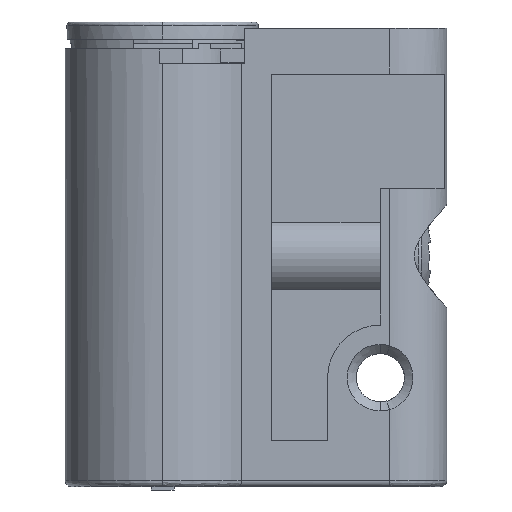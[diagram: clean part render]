
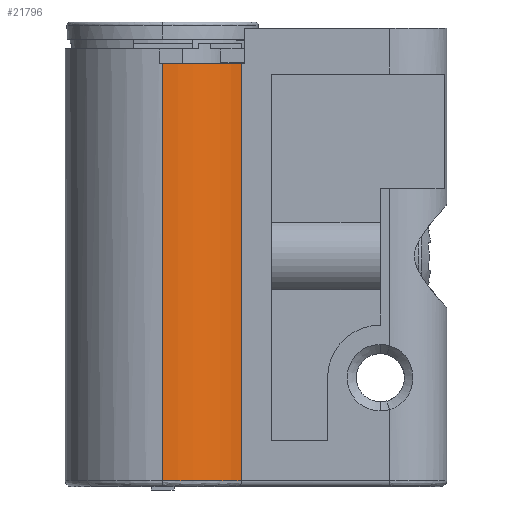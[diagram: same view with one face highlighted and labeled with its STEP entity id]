
A CAD part, left-side view. The second image highlights one B-rep face of the part: STEP entity #21796.
In plain terms, the highlighted cylindrical face has radius 8.5 mm (diameter 17 mm), a partial arc.
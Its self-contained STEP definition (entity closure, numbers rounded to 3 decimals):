
#767 = DIRECTION ( 'NONE',  ( -1., 0., 0. ) ) ;
#3140 = EDGE_CURVE ( 'NONE', #64066, #32660, #12408, .T. ) ;
#3652 = CARTESIAN_POINT ( 'NONE',  ( 0., 0., 1.8 ) ) ;
#4327 = CIRCLE ( 'NONE', #30208, 8.5 ) ;
#6200 = LINE ( 'NONE', #34622, #29482 ) ;
#12408 = CIRCLE ( 'NONE', #32731, 8.5 ) ;
#13049 = EDGE_CURVE ( 'NONE', #35211, #64066, #6200, .T. ) ;
#14126 = EDGE_CURVE ( 'NONE', #37605, #35211, #4327, .T. ) ;
#15710 = ORIENTED_EDGE ( 'NONE', *, *, #13049, .T. ) ;
#15950 = CARTESIAN_POINT ( 'NONE',  ( 0., 0., -37.7 ) ) ;
#16561 = DIRECTION ( 'NONE',  ( 0., 0., 1. ) ) ;
#19644 = ORIENTED_EDGE ( 'NONE', *, *, #3140, .T. ) ;
#20355 = CYLINDRICAL_SURFACE ( 'NONE', #28682, 8.5 ) ;
#20723 = CARTESIAN_POINT ( 'NONE',  ( -5., -6.874, -37.7 ) ) ;
#21796 = ADVANCED_FACE ( 'NONE', ( #35121 ), #20355, .T. ) ;
#25684 = DIRECTION ( 'NONE',  ( 0., 0., -1. ) ) ;
#26164 = DIRECTION ( 'NONE',  ( -1., 0., 0. ) ) ;
#26399 = LINE ( 'NONE', #55347, #41120 ) ;
#28682 = AXIS2_PLACEMENT_3D ( 'NONE', #3652, #52169, #43076 ) ;
#29482 = VECTOR ( 'NONE', #40069, 1000. ) ;
#30208 = AXIS2_PLACEMENT_3D ( 'NONE', #15950, #16561, #26164 ) ;
#30261 = CARTESIAN_POINT ( 'NONE',  ( 0., 0., -1.3 ) ) ;
#32660 = VERTEX_POINT ( 'NONE', #55642 ) ;
#32731 = AXIS2_PLACEMENT_3D ( 'NONE', #30261, #45377, #767 ) ;
#34622 = CARTESIAN_POINT ( 'NONE',  ( -5., -6.874, 1.8 ) ) ;
#35121 = FACE_OUTER_BOUND ( 'NONE', #37507, .T. ) ;
#35211 = VERTEX_POINT ( 'NONE', #20723 ) ;
#37507 = EDGE_LOOP ( 'NONE', ( #19644, #63771, #50326, #15710 ) ) ;
#37605 = VERTEX_POINT ( 'NONE', #39885 ) ;
#39885 = CARTESIAN_POINT ( 'NONE',  ( -8.5, 0., -37.7 ) ) ;
#40069 = DIRECTION ( 'NONE',  ( 0., 0., 1. ) ) ;
#41120 = VECTOR ( 'NONE', #25684, 1000. ) ;
#43076 = DIRECTION ( 'NONE',  ( -1., 0., 0. ) ) ;
#44816 = CARTESIAN_POINT ( 'NONE',  ( -5., -6.874, -1.3 ) ) ;
#45377 = DIRECTION ( 'NONE',  ( 0., 0., -1. ) ) ;
#50326 = ORIENTED_EDGE ( 'NONE', *, *, #14126, .T. ) ;
#52169 = DIRECTION ( 'NONE',  ( 0., 0., -1. ) ) ;
#55347 = CARTESIAN_POINT ( 'NONE',  ( -8.5, 0., 1.8 ) ) ;
#55642 = CARTESIAN_POINT ( 'NONE',  ( -8.5, 0., -1.3 ) ) ;
#61097 = EDGE_CURVE ( 'NONE', #32660, #37605, #26399, .T. ) ;
#63771 = ORIENTED_EDGE ( 'NONE', *, *, #61097, .T. ) ;
#64066 = VERTEX_POINT ( 'NONE', #44816 ) ;
